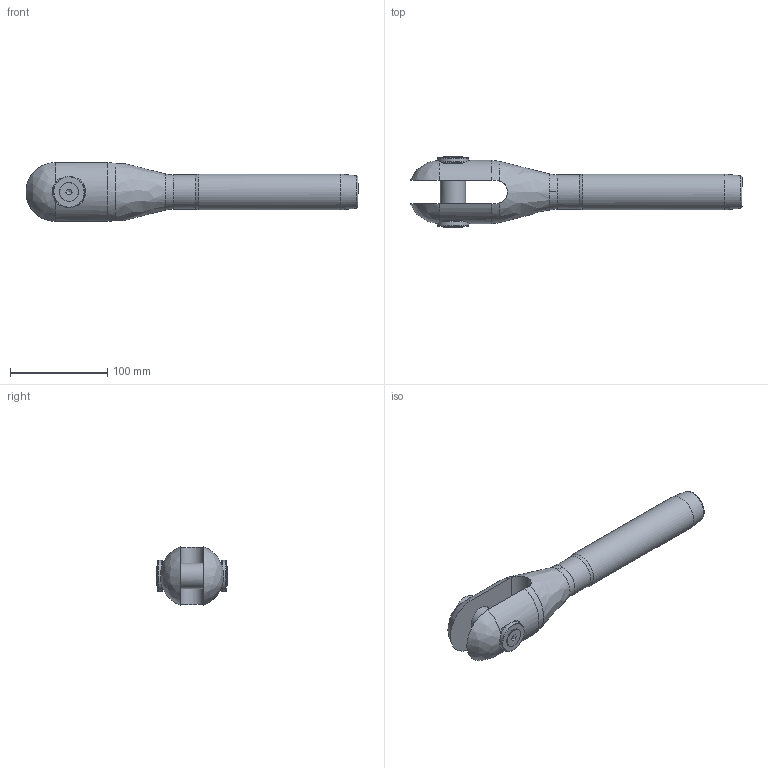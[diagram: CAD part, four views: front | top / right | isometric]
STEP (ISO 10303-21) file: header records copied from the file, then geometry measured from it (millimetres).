
FILE_DESCRIPTION(/* description */ (''),/* implementation_level */ '2;1');
FILE_NAME(/* name */ 'MAC 18_1,4418',/* time_stamp */ '2023-05-23T16:54:53+02:00',/* author */ (''),/* organization */ (''),/* preprocessor_version */ 'ST-DEVELOPER v16.5',/* originating_system */ 'Rhino 7.22',/* authorisation */ '');
FILE_SCHEMA (('CONFIG_CONTROL_DESIGN'));
Length unit declared in the file: millimetre
Products named in the file (1): Document
Bounding box: 341.15 x 72.16 x 60.41 mm (x, y, z)
Volume: 459870.7 mm3; surface area: 71613.2 mm2
Topology: 6 solids, 6 shells, 75 faces, 210 edges, 145 vertices
Faces by surface type: plane 29, bspline 24, cylinder 22
Full cylindrical faces by diameter (mm): 8.376 x2, 10 x2, 10.5 x2, 19.22 x2, 26 x1, 28 x2, 32 x2, 35 x1, 36.8 x1
Entity records: 3114 total; most frequent: CARTESIAN_POINT 1767, ORIENTED_EDGE 412, EDGE_CURVE 206, VERTEX_POINT 145, EDGE_LOOP 85, B_SPLINE_CURVE_WITH_KNOTS 84, ADVANCED_FACE 75, FACE_OUTER_BOUND 75
